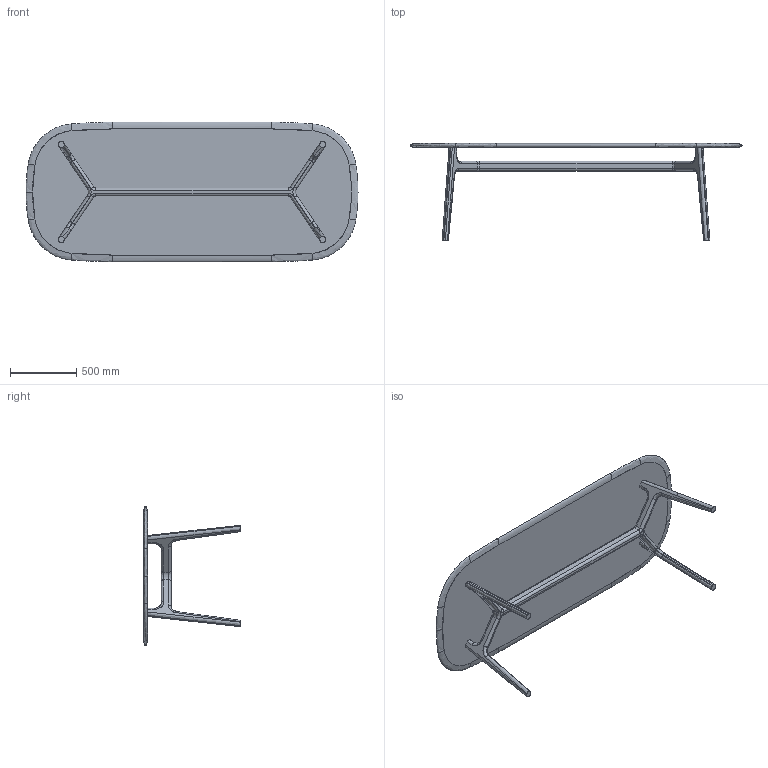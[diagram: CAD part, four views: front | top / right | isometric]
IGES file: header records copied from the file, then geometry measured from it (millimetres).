
Start section: SolidWorks IGES file using analytic representation for surfaces
Global section: file name: C:\Users\Kuma\Desktop\tEMP\3d files retail\783M Solo Oblong Table.IGS; native system: SolidWorks 2016; preprocessor: SolidWorks 2016; author: kuma; date: 170620.123806; units: millimetre
Bounding box: 2499.99 x 730 x 1049.99 mm (x, y, z)
Surface area: 6083016.4 mm2 (no closed solid volume)
Topology: 0 solids, 0 shells, 135 faces, 1706 edges, 1706 vertices
Faces by surface type: bspline 71, revolution 64
